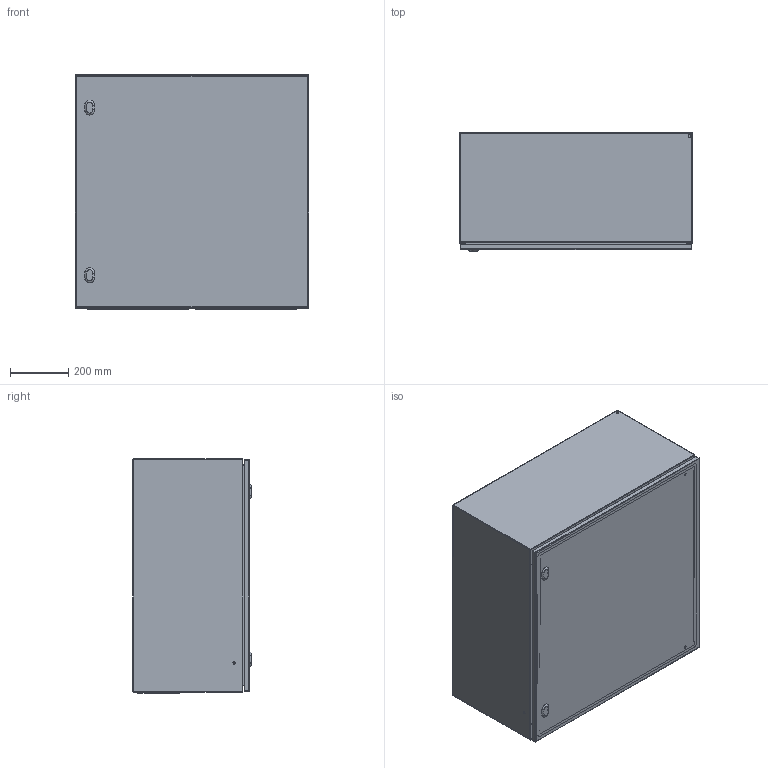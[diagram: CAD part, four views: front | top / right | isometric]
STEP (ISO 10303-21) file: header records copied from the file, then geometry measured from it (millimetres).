
FILE_DESCRIPTION(/* description */ ('STEP AP214'),/* implementation_level */ '2;1');
FILE_NAME(/* name */ 'EC080840-LOD400',/* time_stamp */ '2025-08-01T13:28:41+02:00',/* author */ ('License CC BY-ND 4.0'),/* organization */ ('CADENAS'),/* preprocessor_version */ 'ST-DEVELOPER v19.3',/* originating_system */ 'PARTsolutions',/* authorisation */ ' ');
FILE_SCHEMA (('AUTOMOTIVE_DESIGN {1 0 10303 214 3 1 1}'));
Length unit declared in the file: millimetre
Products named in the file (5): EC080840-LOD400; EC080840-LOD400_cabinet; EC080840-LOD400_door; EC080840-LOD400_bottom_plate; EC080840-LOD400_inner_plate
Assembly tree (5 placements, depth 2):
  EC080840-LOD400
    EC080840-LOD400_cabinet
    EC080840-LOD400_door
    EC080840-LOD400_bottom_plate  x2
    EC080840-LOD400_inner_plate
Bounding box: 800 x 405 x 804 mm (x, y, z)
Volume: 5826186.4 mm3; surface area: 6643388.7 mm2
Topology: 5 solids, 5 shells, 770 faces, 1792 edges, 1158 vertices
Faces by surface type: cylinder 316, plane 296, torus 80, cone 78
Full cylindrical faces by diameter (mm): 1 x96, 4.5 x62, 5 x4, 5.5 x4, 6 x4, 7 x4, 8 x12, 10 x10, 14 x4
Entity records: 16083 total; most frequent: DIRECTION 2940, CARTESIAN_POINT 2592, ORIENTED_EDGE 2300, AXIS2_PLACEMENT_3D 1210, EDGE_CURVE 1150, EDGE_LOOP 1040, FACE_BOUND 1040, VERTEX_POINT 862
